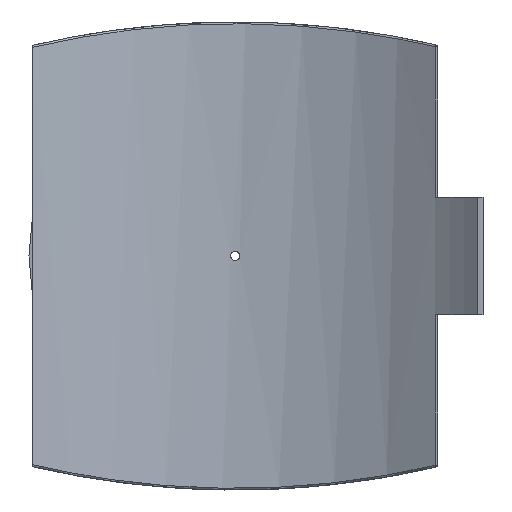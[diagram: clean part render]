
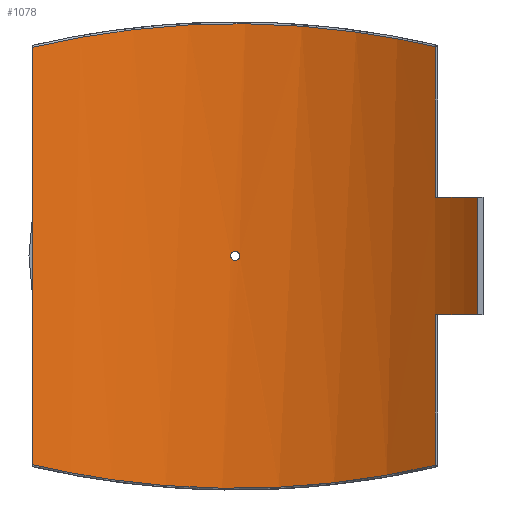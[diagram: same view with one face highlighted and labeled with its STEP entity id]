
A CAD part, front view. The second image highlights one B-rep face of the part: STEP entity #1078.
In plain terms, the highlighted cylindrical face has radius 400 mm (diameter 800 mm), a partial arc.
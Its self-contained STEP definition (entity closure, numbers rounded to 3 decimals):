
#55=FACE_BOUND('',#355,.T.);
#109=B_SPLINE_CURVE_WITH_KNOTS('',3,(#2207,#2208,#2209,#2210,#2211,#2212,
#2213,#2214,#2215,#2216),.UNSPECIFIED.,.F.,.F.,(4,1,1,1,1,1,1,4),(-55.761,
-48.745,-41.729,-34.714,-27.698,-20.683,
-13.667,-6.651),.UNSPECIFIED.);
#110=B_SPLINE_CURVE_WITH_KNOTS('',3,(#2225,#2226,#2227,#2228,#2229,#2230,
#2231,#2232,#2233,#2234),.UNSPECIFIED.,.F.,.F.,(4,1,1,1,1,1,1,4),(-51.754,
-44.739,-37.723,-30.708,-23.692,
-16.677,-9.661,-2.645),.UNSPECIFIED.);
#111=B_SPLINE_CURVE_WITH_KNOTS('',3,(#2237,#2238,#2239,#2240,#2241,#2242,
#2243,#2244,#2245,#2246),.UNSPECIFIED.,.F.,.F.,(4,2,2,2,4),(0.,0.196,
0.392,0.588,0.784),.UNSPECIFIED.);
#112=B_SPLINE_CURVE_WITH_KNOTS('',3,(#2247,#2248,#2249,#2250,#2251,#2252,
#2253,#2254,#2255,#2256,#2257,#2258,#2259,#2260,#2261,#2262,#2263,#2264,
#2265,#2266,#2267,#2268,#2269,#2270,#2271,#2272),.UNSPECIFIED.,.F.,.F.,
(4,2,2,2,2,2,2,2,2,2,2,2,4),(0.784,0.979,1.175,
1.371,1.567,1.763,1.959,2.155,
2.351,2.546,2.742,2.938,3.134),
 .UNSPECIFIED.);
#133=LINE('',#1615,#184);
#144=LINE('',#1899,#195);
#151=LINE('',#2221,#202);
#152=LINE('',#2224,#203);
#184=VECTOR('',#1292,10.);
#195=VECTOR('',#1331,10.);
#202=VECTOR('',#1368,10.);
#203=VECTOR('',#1371,10.);
#244=CYLINDRICAL_SURFACE('',#1175,400.);
#288=FACE_OUTER_BOUND('',#354,.T.);
#354=EDGE_LOOP('',(#839,#840,#841,#842,#843,#844,#845,#846));
#355=EDGE_LOOP('',(#847,#848));
#449=CIRCLE('',#1176,400.);
#450=CIRCLE('',#1177,400.);
#510=VERTEX_POINT('',#1606);
#513=VERTEX_POINT('',#1613);
#533=VERTEX_POINT('',#1892);
#536=VERTEX_POINT('',#1897);
#549=VERTEX_POINT('',#2193);
#550=VERTEX_POINT('',#2218);
#551=VERTEX_POINT('',#2220);
#552=VERTEX_POINT('',#2223);
#553=VERTEX_POINT('',#2235);
#554=VERTEX_POINT('',#2236);
#613=EDGE_CURVE('',#513,#510,#133,.T.);
#643=EDGE_CURVE('',#536,#533,#144,.T.);
#666=EDGE_CURVE('',#549,#536,#109,.T.);
#667=EDGE_CURVE('',#550,#513,#449,.T.);
#668=EDGE_CURVE('',#550,#551,#151,.T.);
#669=EDGE_CURVE('',#533,#551,#450,.T.);
#670=EDGE_CURVE('',#552,#549,#152,.T.);
#671=EDGE_CURVE('',#510,#552,#110,.T.);
#672=EDGE_CURVE('',#553,#554,#111,.T.);
#673=EDGE_CURVE('',#554,#553,#112,.T.);
#839=ORIENTED_EDGE('',*,*,#667,.F.);
#840=ORIENTED_EDGE('',*,*,#668,.T.);
#841=ORIENTED_EDGE('',*,*,#669,.F.);
#842=ORIENTED_EDGE('',*,*,#643,.F.);
#843=ORIENTED_EDGE('',*,*,#666,.F.);
#844=ORIENTED_EDGE('',*,*,#670,.F.);
#845=ORIENTED_EDGE('',*,*,#671,.F.);
#846=ORIENTED_EDGE('',*,*,#613,.F.);
#847=ORIENTED_EDGE('',*,*,#672,.T.);
#848=ORIENTED_EDGE('',*,*,#673,.T.);
#1078=ADVANCED_FACE('',(#288,#55),#244,.F.);
#1175=AXIS2_PLACEMENT_3D('',#2217,#1364,#1365);
#1176=AXIS2_PLACEMENT_3D('',#2219,#1366,#1367);
#1177=AXIS2_PLACEMENT_3D('',#2222,#1369,#1370);
#1292=DIRECTION('',(0.,0.,-1.));
#1331=DIRECTION('',(0.,0.,-1.));
#1364=DIRECTION('center_axis',(0.,0.,1.));
#1365=DIRECTION('ref_axis',(-1.,0.,0.));
#1366=DIRECTION('center_axis',(0.,0.,1.));
#1367=DIRECTION('ref_axis',(-0.687,-0.727,0.));
#1368=DIRECTION('',(0.,0.,1.));
#1369=DIRECTION('center_axis',(0.,0.,-1.));
#1370=DIRECTION('ref_axis',(-0.687,-0.727,0.));
#1371=DIRECTION('',(0.,0.,1.));
#1606=CARTESIAN_POINT('',(226.368,329.784,-236.913));
#1613=CARTESIAN_POINT('',(226.368,329.784,-66.25));
#1615=CARTESIAN_POINT('',(226.368,329.784,0.));
#1892=CARTESIAN_POINT('',(226.368,329.784,66.25));
#1897=CARTESIAN_POINT('',(226.368,329.784,236.913));
#1899=CARTESIAN_POINT('',(226.368,329.784,0.));
#2193=CARTESIAN_POINT('',(-229.5,327.612,236.176));
#2207=CARTESIAN_POINT('Ctrl Pts',(-229.5,327.612,236.176));
#2208=CARTESIAN_POINT('Ctrl Pts',(-210.789,340.72,240.61));
#2209=CARTESIAN_POINT('Ctrl Pts',(-171.012,363.797,248.883));
#2210=CARTESIAN_POINT('Ctrl Pts',(-105.823,387.84,258.13));
#2211=CARTESIAN_POINT('Ctrl Pts',(-37.002,400.33,263.13));
#2212=CARTESIAN_POINT('Ctrl Pts',(33.111,400.673,263.27));
#2213=CARTESIAN_POINT('Ctrl Pts',(102.068,388.845,258.527));
#2214=CARTESIAN_POINT('Ctrl Pts',(167.513,365.424,249.494));
#2215=CARTESIAN_POINT('Ctrl Pts',(207.526,342.717,241.313));
#2216=CARTESIAN_POINT('Ctrl Pts',(226.368,329.784,236.913));
#2217=CARTESIAN_POINT('Origin',(0.,0.,0.));
#2218=CARTESIAN_POINT('',(274.601,290.851,-66.25));
#2219=CARTESIAN_POINT('Origin',(0.,0.,
-66.25));
#2220=CARTESIAN_POINT('',(274.601,290.851,66.25));
#2221=CARTESIAN_POINT('',(274.601,290.851,0.));
#2222=CARTESIAN_POINT('Origin',(0.,0.,
66.25));
#2223=CARTESIAN_POINT('',(-229.5,327.612,-236.176));
#2224=CARTESIAN_POINT('',(-229.5,327.612,0.));
#2225=CARTESIAN_POINT('Ctrl Pts',(226.368,329.784,-236.913));
#2226=CARTESIAN_POINT('Ctrl Pts',(207.526,342.717,-241.313));
#2227=CARTESIAN_POINT('Ctrl Pts',(167.512,365.423,-249.493));
#2228=CARTESIAN_POINT('Ctrl Pts',(102.069,388.846,-258.528));
#2229=CARTESIAN_POINT('Ctrl Pts',(33.111,400.671,-263.269));
#2230=CARTESIAN_POINT('Ctrl Pts',(-37.003,400.331,-263.132));
#2231=CARTESIAN_POINT('Ctrl Pts',(-105.823,387.839,-258.129));
#2232=CARTESIAN_POINT('Ctrl Pts',(-171.012,363.797,-248.884));
#2233=CARTESIAN_POINT('Ctrl Pts',(-210.789,340.72,-240.61));
#2234=CARTESIAN_POINT('Ctrl Pts',(-229.5,327.612,-236.176));
#2235=CARTESIAN_POINT('',(5.2,399.966,0.));
#2236=CARTESIAN_POINT('',(0.,400.,-5.2));
#2237=CARTESIAN_POINT('Ctrl Pts',(5.2,399.966,0.));
#2238=CARTESIAN_POINT('Ctrl Pts',(5.2,399.966,-0.653));
#2239=CARTESIAN_POINT('Ctrl Pts',(5.07,399.968,-1.349));
#2240=CARTESIAN_POINT('Ctrl Pts',(4.539,399.974,-2.631));
#2241=CARTESIAN_POINT('Ctrl Pts',(4.139,399.979,-3.215));
#2242=CARTESIAN_POINT('Ctrl Pts',(3.215,399.987,-4.139));
#2243=CARTESIAN_POINT('Ctrl Pts',(2.631,399.992,-4.539));
#2244=CARTESIAN_POINT('Ctrl Pts',(1.349,399.998,-5.07));
#2245=CARTESIAN_POINT('Ctrl Pts',(0.653,400.,-5.2));
#2246=CARTESIAN_POINT('Ctrl Pts',(0.,400.,-5.2));
#2247=CARTESIAN_POINT('Ctrl Pts',(0.,400.,-5.2));
#2248=CARTESIAN_POINT('Ctrl Pts',(-0.653,400.,-5.2));
#2249=CARTESIAN_POINT('Ctrl Pts',(-1.349,399.998,-5.07));
#2250=CARTESIAN_POINT('Ctrl Pts',(-2.631,399.992,-4.539));
#2251=CARTESIAN_POINT('Ctrl Pts',(-3.215,399.987,-4.139));
#2252=CARTESIAN_POINT('Ctrl Pts',(-4.139,399.979,-3.215));
#2253=CARTESIAN_POINT('Ctrl Pts',(-4.539,399.974,-2.631));
#2254=CARTESIAN_POINT('Ctrl Pts',(-5.07,399.968,-1.349));
#2255=CARTESIAN_POINT('Ctrl Pts',(-5.2,399.966,-0.653));
#2256=CARTESIAN_POINT('Ctrl Pts',(-5.2,399.966,0.653));
#2257=CARTESIAN_POINT('Ctrl Pts',(-5.07,399.968,1.349));
#2258=CARTESIAN_POINT('Ctrl Pts',(-4.539,399.974,2.631));
#2259=CARTESIAN_POINT('Ctrl Pts',(-4.139,399.979,3.215));
#2260=CARTESIAN_POINT('Ctrl Pts',(-3.215,399.987,4.139));
#2261=CARTESIAN_POINT('Ctrl Pts',(-2.631,399.992,4.539));
#2262=CARTESIAN_POINT('Ctrl Pts',(-1.349,399.998,5.07));
#2263=CARTESIAN_POINT('Ctrl Pts',(-0.653,400.,5.2));
#2264=CARTESIAN_POINT('Ctrl Pts',(0.653,400.,5.2));
#2265=CARTESIAN_POINT('Ctrl Pts',(1.349,399.998,5.07));
#2266=CARTESIAN_POINT('Ctrl Pts',(2.631,399.992,4.539));
#2267=CARTESIAN_POINT('Ctrl Pts',(3.215,399.987,4.139));
#2268=CARTESIAN_POINT('Ctrl Pts',(4.139,399.979,3.215));
#2269=CARTESIAN_POINT('Ctrl Pts',(4.539,399.974,2.631));
#2270=CARTESIAN_POINT('Ctrl Pts',(5.07,399.968,1.349));
#2271=CARTESIAN_POINT('Ctrl Pts',(5.2,399.966,0.653));
#2272=CARTESIAN_POINT('Ctrl Pts',(5.2,399.966,0.));
